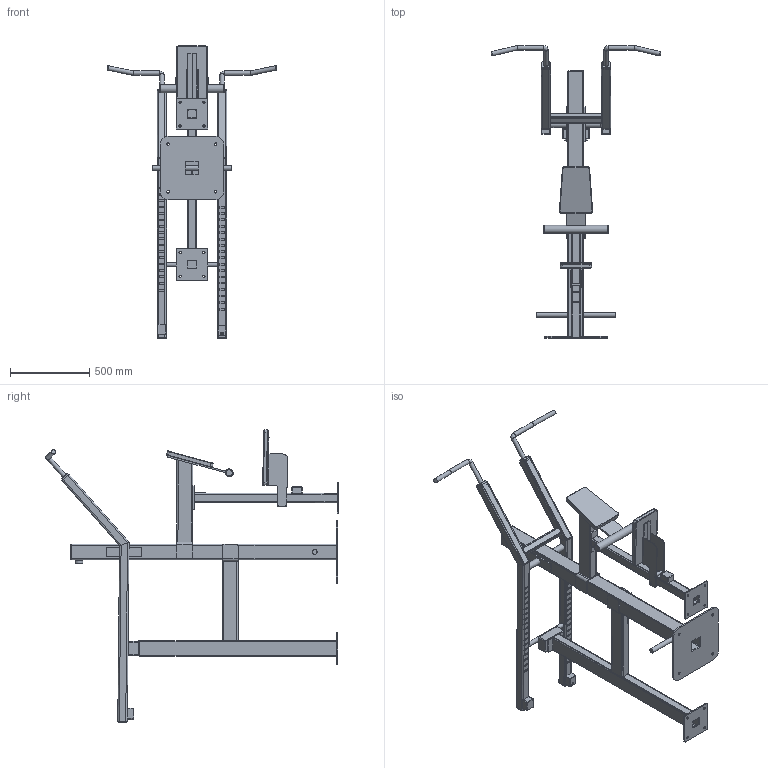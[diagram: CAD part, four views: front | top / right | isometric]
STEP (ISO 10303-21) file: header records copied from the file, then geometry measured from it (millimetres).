
FILE_DESCRIPTION(/* description */ (''),/* implementation_level */ '2;1');
FILE_NAME(/* name */ 'OG24_3D_Low.step',/* time_stamp */ '2025-11-11T15:59:30+02:00',/* author */ (''),/* organization */ (''),/* preprocessor_version */ 'ST-DEVELOPER v20.1',/* originating_system */ 'Autodesk Translation Framework v14.21.0.0',/* authorisation */ '');
FILE_SCHEMA (('AUTOMOTIVE_DESIGN { 1 0 10303 214 3 1 1 }'));
Length unit declared in the file: millimetre
Products named in the file (1): OG24_3D_Low
Bounding box: 1070.9 x 1845.06 x 1843.74 mm (x, y, z)
Volume: 19729933.6 mm3; surface area: 6295586.7 mm2
Topology: 43 solids, 43 shells, 791 faces, 1976 edges, 1275 vertices
Faces by surface type: plane 396, cylinder 352, torus 20, sphere 16, cone 7
Full cylindrical faces by diameter (mm): 6.5 x1, 8.5 x2, 10 x3, 10.5 x2, 11 x1, 14 x8, 16 x4, 18 x3, 28 x7, 29 x4, 30 x3, 31 x9, 39.8 x2, 40 x5, 45.9 x1, 46 x1, 47 x2, 49 x1, 50 x1
Entity records: 24116 total; most frequent: DIRECTION 4315, CARTESIAN_POINT 4043, ORIENTED_EDGE 3952, EDGE_CURVE 1976, AXIS2_PLACEMENT_3D 1547, VERTEX_POINT 1275, LINE 1221, VECTOR 1221
